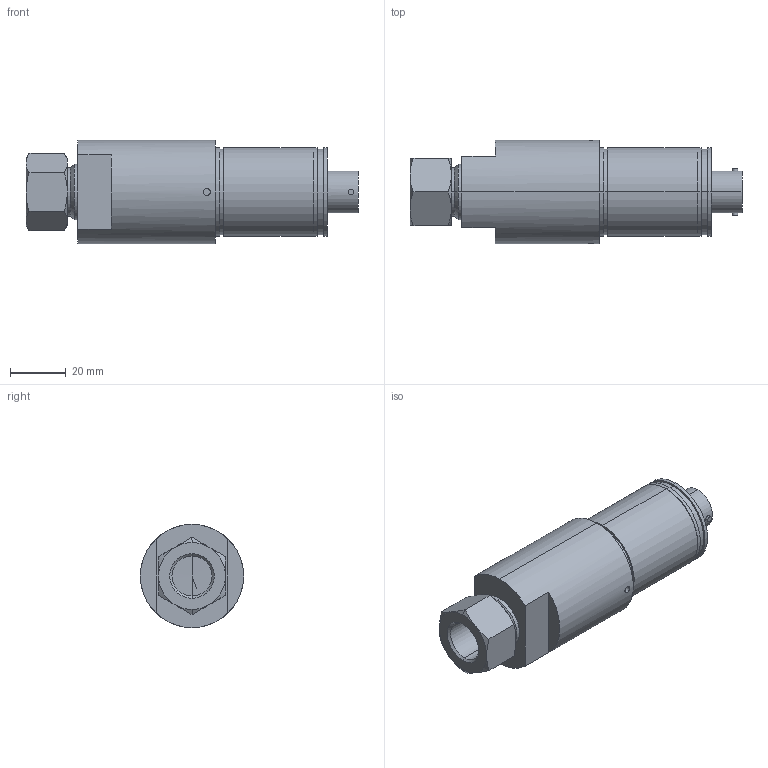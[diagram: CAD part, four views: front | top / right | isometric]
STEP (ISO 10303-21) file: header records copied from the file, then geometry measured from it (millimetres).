
FILE_DESCRIPTION(('STEP AP203'),'1');
FILE_NAME('C:/TPO v2/SharedFS/Outgoing/burster_8221-6002_6zbqewopvc43l2xk3wnuledco.stp','2013-08-27T13:31:53',('TraceParts'),('TraceParts S.A.'),'XStep 1.0',' ',' ');
FILE_SCHEMA(('CONFIG_CONTROL_DESIGN'));
Length unit declared in the file: millimetre
Products named in the file (1): 1
Bounding box: 119 x 37 x 37 mm (x, y, z)
Volume: 90799.6 mm3; surface area: 15047 mm2
Topology: 1 solids, 1 shells, 81 faces, 174 edges, 109 vertices
Faces by surface type: cylinder 32, plane 27, cone 22
Entity records: 2374 total; most frequent: CARTESIAN_POINT 599, DIRECTION 380, ORIENTED_EDGE 344, EDGE_CURVE 172, AXIS2_PLACEMENT_3D 162, VERTEX_POINT 109, EDGE_LOOP 97, ADVANCED_FACE 81
